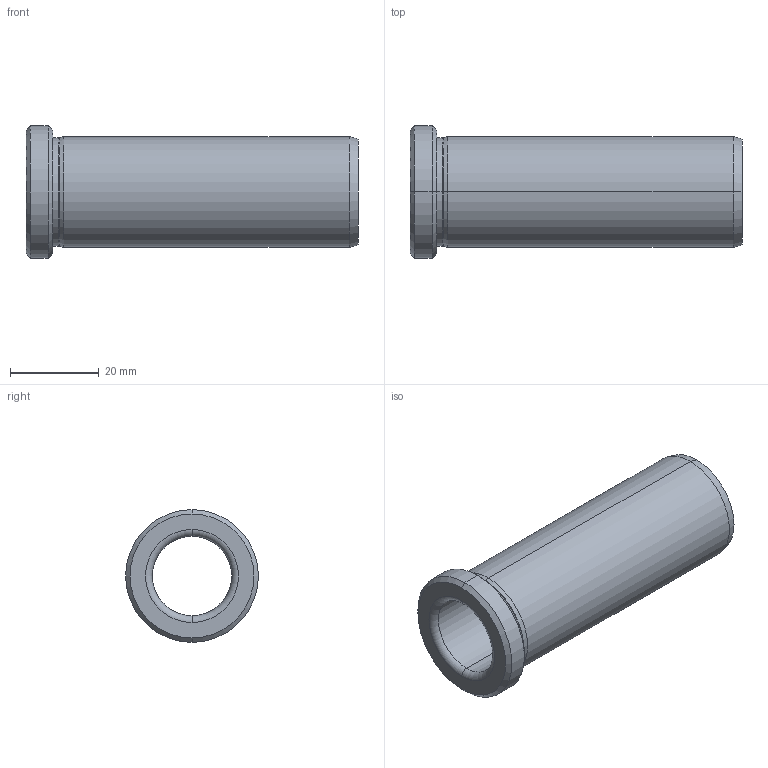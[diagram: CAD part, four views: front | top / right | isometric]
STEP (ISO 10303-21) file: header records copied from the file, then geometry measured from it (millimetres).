
FILE_DESCRIPTION (( 'STEP AP214' ), '1' );
FILE_NAME ('BRCVBG-18X75.STEP', '2020-07-21T12:12:18', ( '' ), ( '' ), 'SwSTEP 2.0', 'SolidWorks 2018', '' );
FILE_SCHEMA (( 'AUTOMOTIVE_DESIGN' ));
Length unit declared in the file: millimetre
Products named in the file (1): BRCVBG-18X75
Bounding box: 75 x 30 x 30 mm (x, y, z)
Volume: 18946 mm3; surface area: 10957.2 mm2
Topology: 1 solids, 1 shells, 26 faces, 52 edges, 30 vertices
Faces by surface type: cylinder 10, cone 8, torus 4, plane 4
Entity records: 716 total; most frequent: DIRECTION 140, CARTESIAN_POINT 109, ORIENTED_EDGE 104, AXIS2_PLACEMENT_3D 61, EDGE_CURVE 52, CIRCLE 34, EDGE_LOOP 30, VERTEX_POINT 30
